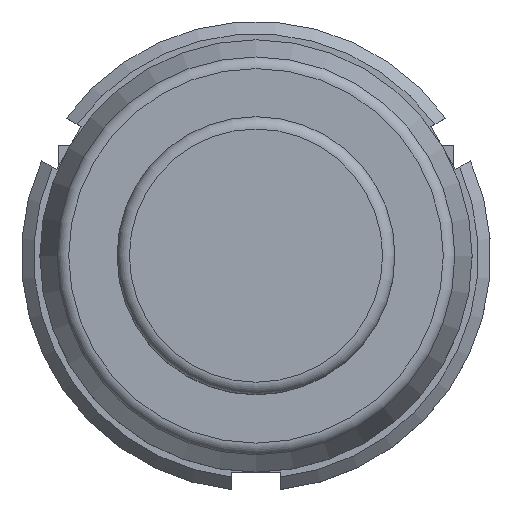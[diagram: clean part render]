
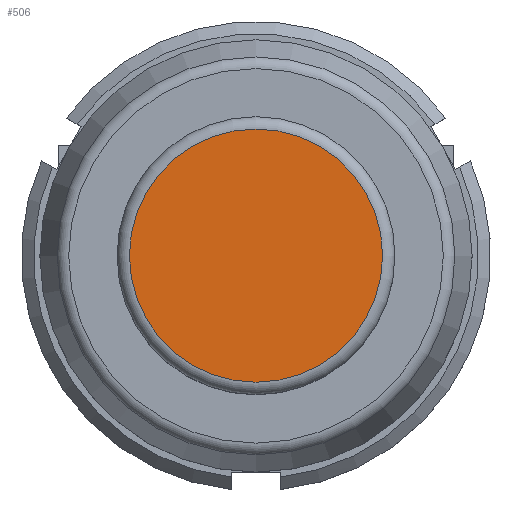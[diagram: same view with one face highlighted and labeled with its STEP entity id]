
A CAD part, top view. The second image highlights one B-rep face of the part: STEP entity #506.
In plain terms, the highlighted planar face has unit normal (0, 0, 1).
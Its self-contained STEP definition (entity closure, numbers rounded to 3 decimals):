
#483=CARTESIAN_POINT('',(-10.25,0.0,63.5));
#484=VERTEX_POINT('',#483);
#485=CARTESIAN_POINT('',(0.0,0.0,63.5));
#486=DIRECTION('',(0.0,0.0,1.0));
#487=DIRECTION('',(-1.0,0.0,0.0));
#488=AXIS2_PLACEMENT_3D('',#485,#486,#487);
#489=CIRCLE('',#488,10.25);
#490=EDGE_CURVE('',#484,#484,#489,.T.);
#498=CARTESIAN_POINT('',(-5.125,0.0,63.5));
#499=DIRECTION('',(0.0,0.0,1.0));
#500=DIRECTION('',(1.0,0.0,0.0));
#501=AXIS2_PLACEMENT_3D('',#498,#499,#500);
#502=PLANE('',#501);
#503=ORIENTED_EDGE('',*,*,#490,.T.);
#504=EDGE_LOOP('',(#503));
#505=FACE_OUTER_BOUND('',#504,.T.);
#506=ADVANCED_FACE('',(#505),#502,.T.);
